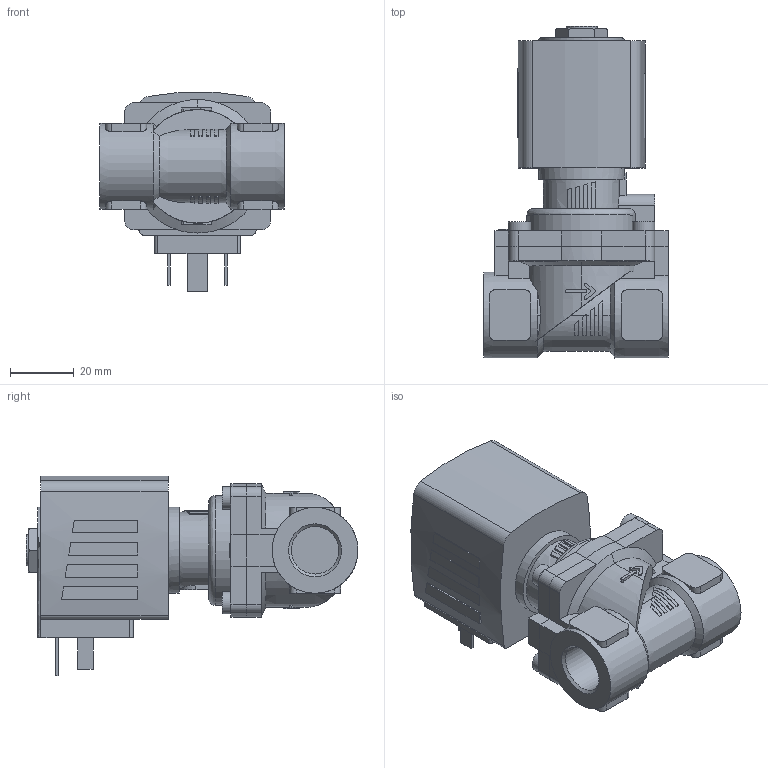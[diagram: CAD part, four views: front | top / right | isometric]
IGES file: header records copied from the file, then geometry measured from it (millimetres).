
Start section: Data from Parasolid IGES Translator 26.0.171, Copyright(c) 2006 Siemens PLM Software. All Rights Reserved.
Global section: file name: 6281-331196-2_2-Way_Solenoid_Valve__Servo-assisted__General_Purpose.igs; native system: By Siemens PLM Incorporated; preprocessor: XPlus GENERIC/IGES 26.0.171; author: Noname; organization: Noname; date: 20240520.114246; units: millimetre
Bounding box: 58 x 104.5 x 62.83 mm (x, y, z)
Surface area: 29973.6 mm2 (no closed solid volume)
Topology: 0 solids, 0 shells, 365 faces, 1906 edges, 1892 vertices
Faces by surface type: extrusion 237, revolution 128
